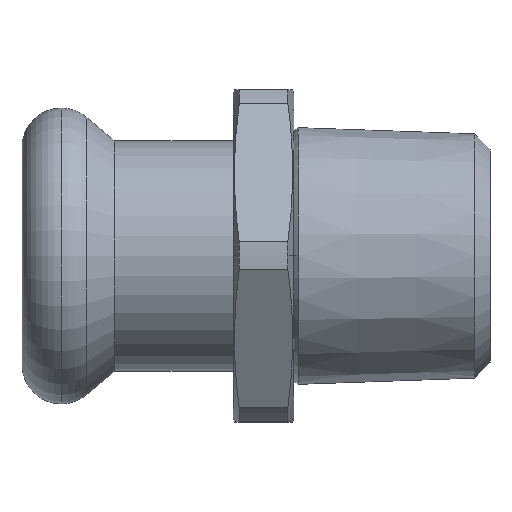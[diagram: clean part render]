
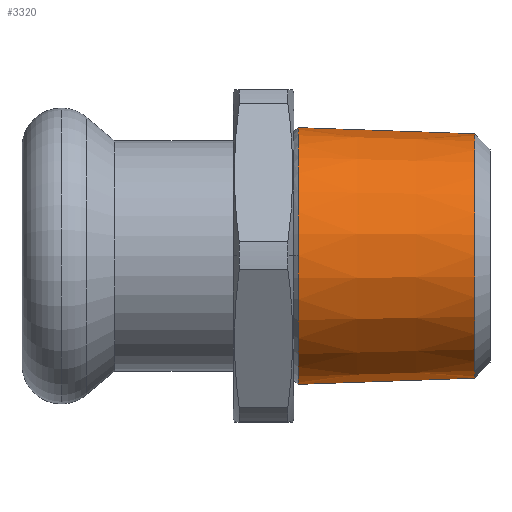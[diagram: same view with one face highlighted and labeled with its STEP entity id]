
A CAD part, top view. The second image highlights one B-rep face of the part: STEP entity #3320.
In plain terms, the highlighted conical face has half-angle 2 degrees and reference radius 8.5 mm.
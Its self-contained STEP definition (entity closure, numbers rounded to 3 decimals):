
#460=CARTESIAN_POINT('',(-57.57,13.148,
0.));
#470=VERTEX_POINT('',#460);
#500=CARTESIAN_POINT('',(-57.57,21.24,
0.));
#510=DIRECTION('',(-1.,0.,0.));
#520=DIRECTION('',(0.,-1.,0.));
#530=AXIS2_PLACEMENT_3D('',#500,#510,#520);
#540=CIRCLE('',#530,8.091);
#550=CARTESIAN_POINT('',(-57.57,29.331,
0.));
#560=VERTEX_POINT('',#550);
#2910=EDGE_CURVE('',#560,#470,#540,.T.);
#2970=CARTESIAN_POINT('',(-69.273,21.24,
0.));
#2980=DIRECTION('',(-1.,0.,0.));
#2990=DIRECTION('',(0.,1.,0.));
#3000=AXIS2_PLACEMENT_3D('',#2970,#2980,#2990);
#3010=CONICAL_SURFACE('',#3000,8.5,0.035);
#3020=CARTESIAN_POINT('',(-69.273,21.24,
0.));
#3030=DIRECTION('',(1.,0.,0.));
#3040=DIRECTION('',(0.,1.,0.));
#3050=AXIS2_PLACEMENT_3D('',#3020,#3030,#3040);
#3060=CIRCLE('',#3050,8.5);
#3070=CARTESIAN_POINT('',(-69.273,12.74,
0.));
#3080=VERTEX_POINT('',#3070);
#3090=CARTESIAN_POINT('',(-69.273,21.24,
-8.5));
#3100=VERTEX_POINT('',#3090);
#3110=EDGE_CURVE('',#3080,#3100,#3060,.T.);
#3120=ORIENTED_EDGE('',*,*,#3110,.T.);
#3130=CARTESIAN_POINT('',(-69.273,12.74,
0.));
#3140=DIRECTION('',(-0.999,-0.035,
0.));
#3150=VECTOR('',#3140,243.557);
#3160=LINE('',#3130,#3150);
#3170=EDGE_CURVE('',#470,#3080,#3160,.T.);
#3180=ORIENTED_EDGE('',*,*,#3170,.T.);
#3190=ORIENTED_EDGE('',*,*,#2910,.T.);
#3200=CARTESIAN_POINT('',(-69.273,29.74,
0.));
#3210=DIRECTION('',(-0.999,0.035,
0.));
#3220=VECTOR('',#3210,243.557);
#3230=LINE('',#3200,#3220);
#3240=CARTESIAN_POINT('',(-69.273,29.74,
0.));
#3250=VERTEX_POINT('',#3240);
#3260=EDGE_CURVE('',#560,#3250,#3230,.T.);
#3270=ORIENTED_EDGE('',*,*,#3260,.F.);
#3280=EDGE_CURVE('',#3100,#3250,#3060,.T.);
#3290=ORIENTED_EDGE('',*,*,#3280,.T.);
#3300=EDGE_LOOP('',(#3290,#3270,#3190,#3180,#3120));
#3310=FACE_OUTER_BOUND('',#3300,.T.);
#3320=ADVANCED_FACE('',(#3310),#3010,.T.);
